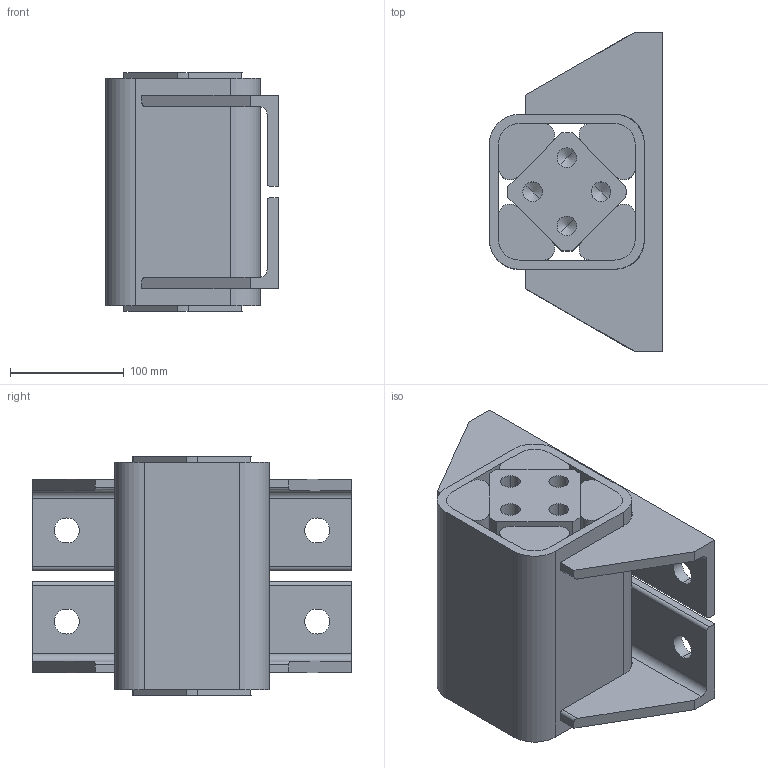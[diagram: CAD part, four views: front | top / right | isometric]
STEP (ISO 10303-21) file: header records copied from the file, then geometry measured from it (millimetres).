
FILE_DESCRIPTION((''),'2;1');
FILE_NAME('D:\ROSTA\Gummifederelemente\3D\DW-A80x200_01101007.stp','2005-02-11T04:30:54',('Administrator'),(''),'Autodesk Inventor 8','Autodesk Inventor 8','');
FILE_SCHEMA(('AUTOMOTIVE_DESIGN { 1 0 10303 214 1 1 1 1 }'));
Length unit declared in the file: millimetre
Products named in the file (5): Baugruppe7; 2.4.4813-001; 2.4.4813-002; 2.4.4813-003; 2.4.4813-004
Assembly tree (8 placements, depth 2):
  Baugruppe7
    2.4.4813-001
    2.4.4813-002
    2.4.4813-003  x2
    2.4.4813-004  x4
Bounding box: 152 x 280 x 210 mm (x, y, z)
Volume: 4033748.1 mm3; surface area: 587145 mm2
Topology: 8 solids, 8 shells, 142 faces, 362 edges, 228 vertices
Faces by surface type: plane 66, cylinder 44, bspline 32
Entity records: 3315 total; most frequent: CARTESIAN_POINT 1033, DIRECTION 451, ORIENTED_EDGE 446, EDGE_CURVE 223, AXIS2_PLACEMENT_3D 156, VERTEX_POINT 146, VECTOR 139, LINE 139
